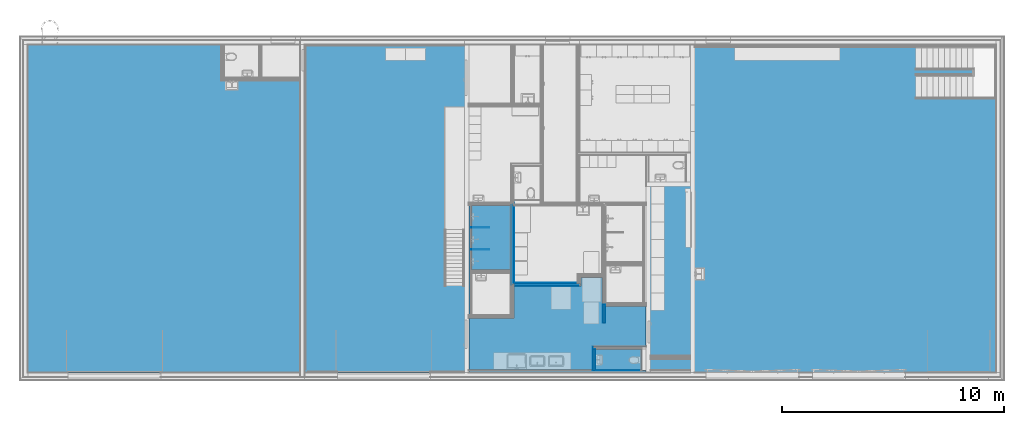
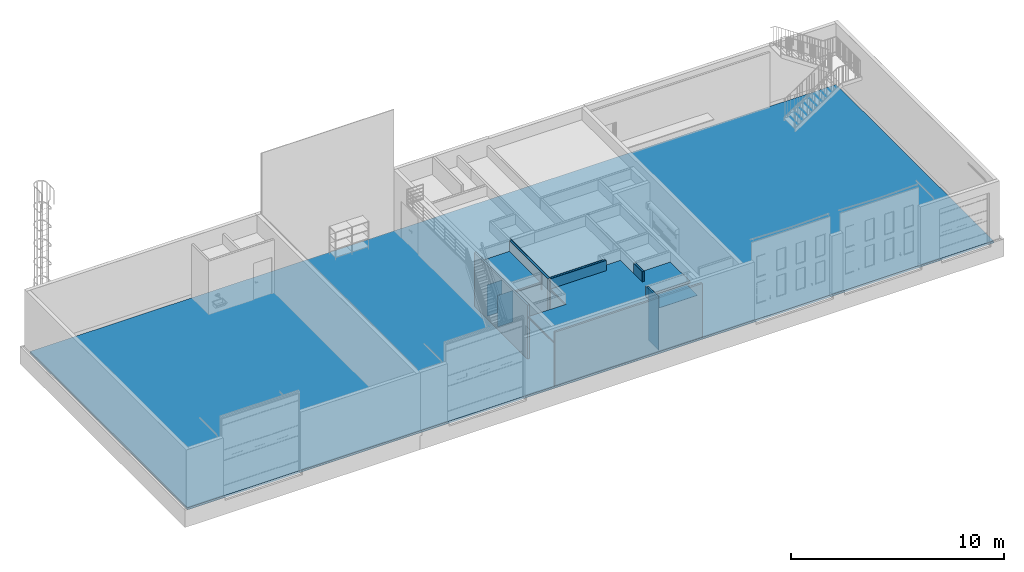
# One storey, part 4 of 67: 27 building element parts, 1 opening, 12 elements without a shape of their own.
"""IFC4 building model written with IfcOpenShell, lengths in millimetres."""

from ifc_helpers import new_model, entity, si_unit, converted_unit, direction, frame, origin, place, context, subcontext, project, spatial, indexed_curve, outline, extrude, material, type_object, element, aggregate, save


model = new_model("IFC4")

# Units and contexts
model_context = context("Model", 3, precision=0.01, world=origin(), true_north=direction((0.0, 1.0)))
body_context = subcontext(model_context, "Body", "Model", "MODEL_VIEW")
ifc_project = project(units=[si_unit("LENGTHUNIT", "METRE", prefix="MILLI"), si_unit("AREAUNIT", "SQUARE_METRE"), si_unit("VOLUMEUNIT", "CUBIC_METRE"), converted_unit("PLANEANGLEUNIT", "DEGREE", entity("IfcPlaneAngleMeasure", 0.017453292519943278), si_unit("PLANEANGLEUNIT", "RADIAN"), dimensions=[0, 0, 0, 0, 0, 0, 0])], contexts=[model_context])

# Site, building, storey
site_placement = place(None, origin())
site = spatial("IfcSite", under=ifc_project, at=site_placement, Name="Tomtens navn", CompositionType="ELEMENT")
building_placement = place(site_placement, origin())
building = spatial("IfcBuilding", under=site, at=building_placement, Name="Byggets navn", CompositionType="ELEMENT")
storey_placement = place(building_placement, origin())
storey = spatial("IfcBuildingStorey", under=building, at=storey_placement, Name="Level 01", CompositionType="ELEMENT", Elevation=2.1993652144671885e-25)

# Slab, building element part
slab_type = type_object("IfcSlabType", Name="Floor:Gulv på grunn 120mm", PredefinedType="FLOOR")
slab_placement = place(storey_placement, origin())
slab = element("IfcSlab", 1, at=slab_placement, inside=storey, type_object=slab_type, Name="Floor:Gulv på grunn 120mm", PredefinedType="FLOOR")
building_element_part_1_placement = place(slab_placement, origin())
building_element_part_1 = element("IfcBuildingElementPart", 2, at=building_element_part_1_placement, Name="Floor:Gulv på grunn 120mm", context=body_context, shape_type="SweptSolid", body=[
    extrude(outline(indexed_curve([(-21854.999549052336, -7400.001693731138), (21854.999549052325, -7400.001693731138), (21854.99954905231, 7400.001693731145), (-21854.999549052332, 7400.00169373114), (-21854.999549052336, -7400.001693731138)], self_intersect=False)), frame((60567.8524863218, 15461.462642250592, -120.0), z_axis=(0.0, 0.0, 1.0), x_axis=(-1.0, 2.0273487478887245e-07, 0.0)), (0.0, 0.0, 1.0), 119.99999999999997),
])
aggregate(slab, [building_element_part_1])

# Space
space_1_placement = place(storey_placement, origin())
space_1 = spatial("IfcSpace", under=storey, at=space_1_placement, CompositionType="ELEMENT", PredefinedType="NOTDEFINED")

# Covering, building element parts
covering_type_1 = type_object("IfcCoveringType", Name="Compound Ceiling:H02 257_Systemhimling 600x600, hygiene", PredefinedType="CEILING")
covering_1_placement = place(space_1_placement, origin())
covering_1 = element("IfcCovering", 3, at=covering_1_placement, inside=space_1, type_object=covering_type_1, Name="Compound Ceiling:H02 257_Systemhimling 600x600, hygiene", PredefinedType="CEILING")
ifc_material_1 = material(Name="NO_Himling (type ikke bestemt)", Category="Diverse")
building_element_part_2_placement = place(covering_1_placement, origin())
building_element_part_2 = element("IfcBuildingElementPart", 4, at=building_element_part_2_placement, material=ifc_material_1, Name="NO_Himling (type ikke bestemt)", context=body_context, shape_type="SweptSolid", body=[
    extrude(outline(indexed_curve([(-1456.7500000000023, -884.9999999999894), (1456.7500000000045, -884.9999999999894), (1456.7500000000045, 884.9999999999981), (-1456.7500000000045, 884.9999999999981), (-1456.7500000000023, -884.9999999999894)], self_intersect=False)), frame((59628.853528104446, 14149.21645692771, 2420.0), z_axis=(0.0, 0.0, 1.0), x_axis=(0.0, -1.0, 0.0)), (0.0, 0.0, 1.0), 79.99999999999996),
])
ifc_material_2 = material(Name="NO_Himling 600x600 hygiene", Category="Diverse")
building_element_part_3_placement = place(covering_1_placement, origin())
building_element_part_3 = element("IfcBuildingElementPart", 5, at=building_element_part_3_placement, material=ifc_material_2, Name="NO_Himling 600x600 hygiene", context=body_context, shape_type="SweptSolid", body=[
    extrude(outline(indexed_curve([(-1456.7500000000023, -884.9999999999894), (1456.7500000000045, -884.9999999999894), (1456.7500000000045, 884.9999999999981), (-1456.7500000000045, 884.9999999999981), (-1456.7500000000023, -884.9999999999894)], self_intersect=False)), frame((59628.853528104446, 14149.21645692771, 2400.0), z_axis=(0.0, 0.0, 1.0), x_axis=(0.0, -1.0, 0.0)), (0.0, 0.0, 1.0), 20.000000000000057),
])
aggregate(covering_1, [building_element_part_2, building_element_part_3])

# Space
space_2_placement = place(storey_placement, origin())
space_2 = spatial("IfcSpace", under=storey, at=space_2_placement, CompositionType="ELEMENT", PredefinedType="NOTDEFINED")

# Covering, building element parts
covering_type_2 = type_object("IfcCoveringType", Name="Compound Ceiling:H01 257_Systemhimling 600x600, tykkelse 100", PredefinedType="CEILING")
covering_2_placement = place(space_2_placement, origin())
covering_2 = element("IfcCovering", 6, at=covering_2_placement, inside=space_2, type_object=covering_type_2, Name="Compound Ceiling:H01 257_Systemhimling 600x600, tykkelse 100", PredefinedType="CEILING")
building_element_part_4_placement = place(covering_2_placement, origin())
building_element_part_4 = element("IfcBuildingElementPart", 7, at=building_element_part_4_placement, material=ifc_material_1, Name="NO_Himling (type ikke bestemt)", context=body_context, shape_type="SweptSolid", body=[
    extrude(outline(indexed_curve([(-4.928571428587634, -4693.308194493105), (2348.0714285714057, -4693.308194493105), (2348.071428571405, 889.8491669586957), (1274.0714285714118, 889.8491669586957), (1274.0714285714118, 3306.691805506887), (-545.9285714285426, 3306.6918055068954), (-545.9285714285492, 1460.6918055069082), (211.07142857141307, 1460.6918055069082), (211.07142857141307, 1339.6918055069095), (-1841.1785714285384, 1339.6918055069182), (-1841.1785714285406, 364.6918055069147), (-1441.1785714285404, 364.6918055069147), (-1441.1785714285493, -2668.3081944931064), (-4.928571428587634, -2668.308194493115), (-4.928571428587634, -4693.308194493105)], self_intersect=False)), frame((63316.16172259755, 10521.537885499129, 2420.0), z_axis=(0.0, 0.0, 1.0), x_axis=(0.0, -1.0, 0.0)), (0.0, 0.0, 1.0), 79.99999999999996),
])
ifc_material_3 = material(Name="NO_Himling 600x600", Category="Diverse")
building_element_part_5_placement = place(covering_2_placement, origin())
building_element_part_5 = element("IfcBuildingElementPart", 8, at=building_element_part_5_placement, material=ifc_material_3, Name="NO_Himling 600x600", context=body_context, shape_type="SweptSolid", body=[
    extrude(outline(indexed_curve([(-4.928571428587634, -4693.308194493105), (2348.0714285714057, -4693.308194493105), (2348.071428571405, 889.8491669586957), (1274.0714285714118, 889.8491669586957), (1274.0714285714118, 3306.691805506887), (-545.9285714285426, 3306.6918055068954), (-545.9285714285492, 1460.6918055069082), (211.07142857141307, 1460.6918055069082), (211.07142857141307, 1339.6918055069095), (-1841.1785714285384, 1339.6918055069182), (-1841.1785714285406, 364.6918055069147), (-1441.1785714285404, 364.6918055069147), (-1441.1785714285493, -2668.3081944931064), (-4.928571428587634, -2668.308194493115), (-4.928571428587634, -4693.308194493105)], self_intersect=False)), frame((63316.16172259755, 10521.537885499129, 2400.0), z_axis=(0.0, 0.0, 1.0), x_axis=(0.0, -1.0, 0.0)), (0.0, 0.0, 1.0), 20.000000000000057),
])
aggregate(covering_2, [building_element_part_4, building_element_part_5])

# Wall, building element parts
wall_type_1 = type_object("IfcWallType", Name="Basic Wall:IV12 Utforing Stender(48)-Forestia", PredefinedType="STANDARD")
wall_1_placement = place(storey_placement, frame((66622.85352810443, 8118.466456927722, 0.0), z_axis=(0.0, 0.0, 1.0), x_axis=(-1.0, 0.0, 0.0)))
wall_1 = element("IfcWall", 9, at=wall_1_placement, inside=storey, type_object=wall_type_1, Name="Basic Wall:IV12 Utforing Stender(48)-Forestia", PredefinedType="NOTDEFINED")
ifc_material_4 = material(Name="NO_platekledning forestia", Category="Tre")
building_element_part_6_placement = place(wall_1_placement, origin())
building_element_part_6 = element("IfcBuildingElementPart", 10, at=building_element_part_6_placement, material=ifc_material_4, Name="NO_platekledning forestia", context=body_context, shape_type="SweptSolid", body=[
    extrude(outline(indexed_curve([(-7.499999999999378, -1055.4213192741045), (7.500000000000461, -1055.4213192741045), (7.500000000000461, 1055.4213192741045), (-7.499999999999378, 1055.4213192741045), (-7.499999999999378, -1055.4213192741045)], self_intersect=False)), frame((1253.4213192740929, -47.50000000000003, 0.0), z_axis=(0.0, 0.0, 1.0), x_axis=(0.0, 1.0, 0.0)), (0.0, 0.0, 1.0), 3087.999999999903),
])
ifc_material_5 = material(Name="Stender", Category="Unassigned")
building_element_part_7_placement = place(wall_1_placement, origin())
building_element_part_7 = element("IfcBuildingElementPart", 11, at=building_element_part_7_placement, material=ifc_material_5, Name="Stender", context=body_context, shape_type="SweptSolid", body=[
    extrude(outline(indexed_curve([(-47.49999999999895, -4000.0000000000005), (47.500000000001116, -4000.0000000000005), (47.50000000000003, 3999.999999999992), (-47.50000000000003, 3999.999999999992), (-47.49999999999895, -4000.0000000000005)], self_intersect=False)), frame((4000.0, 7.500000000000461, 0.0), z_axis=(0.0, 0.0, 1.0), x_axis=(0.0, 1.0, 0.0)), (0.0, 0.0, 1.0), 3087.999999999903),
])
aggregate(wall_1, [building_element_part_6, building_element_part_7])

# Wall, building element parts, opening
wall_type_2 = type_object("IfcWallType", Name="Basic Wall:IV15 Gips kryssfiner 95 stålstender +15mm kryssfiner+baderomsplater 2", PredefinedType="STANDARD")
wall_2_placement = place(storey_placement, frame((60588.353528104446, 15605.966456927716, 0.0), z_axis=(0.0, 0.0, 1.0), x_axis=(0.0, -1.0, 0.0)))
wall_2 = element("IfcWall", 12, at=wall_2_placement, inside=storey, type_object=wall_type_2, Name="Basic Wall:IV15 Gips kryssfiner 95 stålstender +15mm kryssfiner+baderomsplater 2", PredefinedType="NOTDEFINED")
ifc_material_6 = material(Name="NO_Kryssfiner", Category="Tre")
building_element_part_8_placement = place(wall_2_placement, origin())
building_element_part_8 = element("IfcBuildingElementPart", 13, at=building_element_part_8_placement, material=ifc_material_6, Name="NO_Kryssfiner", context=body_context, shape_type="SweptSolid", body=[
    extrude(outline(indexed_curve([(-7.500000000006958, -1789.8750000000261), (7.499999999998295, -1789.8750000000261), (7.500000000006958, 1789.875000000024), (-7.499999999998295, 1789.875000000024), (-7.500000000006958, -1789.8750000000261)], self_intersect=False)), frame((1778.8750000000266, -56.0, 0.0), z_axis=(0.0, 0.0, 1.0), x_axis=(0.0, -1.0, 0.0)), (0.0, 0.0, 1.0), 3087.999999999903),
])
opening_placement = place(wall_2_placement, origin())
opening = element("IfcOpeningElement", 14, at=opening_placement, cuts=building_element_part_8, Name="Basic Wall:IV15 Gips kryssfiner 95 stålstender +15mm kryssfiner+baderomsplater 2:1", PredefinedType="OPENING", context=body_context, shape_type="SweptSolid", body=[
    extrude(outline(indexed_curve([(-484.99999999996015, -47.500000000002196), (484.9999999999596, -47.500000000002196), (484.9999999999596, 47.50000000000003), (-484.99999999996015, 47.500000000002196), (-484.99999999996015, -47.500000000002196)], self_intersect=False)), frame((2987.0, -63.50000000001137, 2595.0), z_axis=(0.0, 1.0, 0.0), x_axis=(0.0, 0.0, 1.0)), (0.0, 0.0, 1.0), 15.000000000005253),
])
building_element_part_9_placement = place(wall_2_placement, origin())
building_element_part_9 = element("IfcBuildingElementPart", 15, at=building_element_part_9_placement, material=ifc_material_5, Name="Stender", context=body_context, shape_type="SweptSolid", body=[
    extrude(outline(indexed_curve([(-1797.3750000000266, -47.500000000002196), (1797.3750000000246, -47.500000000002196), (1797.3750000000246, 47.499999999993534), (-1797.3750000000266, 47.499999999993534), (-1797.3750000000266, -47.500000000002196)], self_intersect=False)), frame((1771.3750000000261, -1.0, 0.0)), (0.0, 0.0, 1.0), 3087.999999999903),
])
building_element_part_10_placement = place(wall_2_placement, origin())
building_element_part_10 = element("IfcBuildingElementPart", 16, at=building_element_part_10_placement, material=ifc_material_6, Name="NO_Kryssfiner", context=body_context, shape_type="SweptSolid", body=[
    extrude(outline(indexed_curve([(-1844.8750000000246, -7.500000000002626), (1844.8750000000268, -7.500000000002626), (1844.8750000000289, 7.500000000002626), (-1844.8750000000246, 7.500000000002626), (-1844.8750000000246, -7.500000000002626)], self_intersect=False)), frame((1723.8750000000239, 54.0, 0.0)), (0.0, 0.0, 1.0), 3087.999999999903),
])
ifc_material_7 = material(Name="Gipsplater", Category="NOR ^ Gips")
building_element_part_11_placement = place(wall_2_placement, origin())
building_element_part_11 = element("IfcBuildingElementPart", 17, at=building_element_part_11_placement, material=ifc_material_7, Name="Gipsplater", context=body_context, shape_type="SweptSolid", body=[
    extrude(outline(indexed_curve([(-1851.3750000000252, -6.500000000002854), (1851.3750000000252, -6.500000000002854), (1851.3750000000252, 6.49999999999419), (-1851.3750000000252, 6.49999999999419), (-1851.3750000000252, -6.500000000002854)], self_intersect=False)), frame((1717.3750000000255, 68.0, 0.0)), (0.0, 0.0, 1.0), 3087.999999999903),
])
aggregate(wall_2, [building_element_part_8, opening, building_element_part_9, building_element_part_10, building_element_part_11])

# Wall, building element parts
wall_type_3 = type_object("IfcWallType", Name="Basic Wall:IV10  Forestia 95 Stender Forestia", PredefinedType="STANDARD")
wall_3_placement = place(storey_placement, frame((64266.51088955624, 9126.466456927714, 0.0), z_axis=(0.0, 0.0, 1.0), x_axis=(0.0, -1.0, 0.0)))
wall_3 = element("IfcWall", 18, at=wall_3_placement, inside=storey, type_object=wall_type_3, Name="Basic Wall:IV10  Forestia 95 Stender Forestia", PredefinedType="NOTDEFINED")
building_element_part_12_placement = place(wall_3_placement, origin())
building_element_part_12 = element("IfcBuildingElementPart", 19, at=building_element_part_12_placement, material=ifc_material_5, Name="Stender", context=body_context, shape_type="SweptSolid", body=[
    extrude(outline(indexed_curve([(-490.49999999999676, -47.49999999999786), (490.49999999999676, -47.49999999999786), (490.49999999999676, 47.49999999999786), (-490.49999999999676, 47.49999999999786), (-490.49999999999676, -47.49999999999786)], self_intersect=False)), frame((477.4999999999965, 0.0, 0.0)), (0.0, 0.0, 1.0), 3087.999999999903),
])
building_element_part_13_placement = place(wall_3_placement, origin())
building_element_part_13 = element("IfcBuildingElementPart", 20, at=building_element_part_13_placement, material=ifc_material_4, Name="NO_platekledning forestia", context=body_context, shape_type="SweptSolid", body=[
    extrude(outline(indexed_curve([(-476.4999999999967, -6.499999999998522), (476.4999999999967, -6.499999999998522), (476.4999999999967, 6.500000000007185), (-476.4999999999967, 6.500000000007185), (-476.4999999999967, -6.499999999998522)], self_intersect=False)), frame((476.4999999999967, 54.0, 0.0)), (0.0, 0.0, 1.0), 3087.999999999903),
])
building_element_part_14_placement = place(wall_3_placement, origin())
building_element_part_14 = element("IfcBuildingElementPart", 21, at=building_element_part_14_placement, material=ifc_material_4, Name="NO_platekledning forestia", context=body_context, shape_type="SweptSolid", body=[
    extrude(outline(indexed_curve([(-530.4999999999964, -6.49999999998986), (530.4999999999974, -6.49999999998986), (530.4999999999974, 6.500000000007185), (-530.4999999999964, 6.500000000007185), (-530.4999999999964, -6.49999999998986)], self_intersect=False)), frame((422.499999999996, -54.0, 0.0)), (0.0, 0.0, 1.0), 3087.999999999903),
])
aggregate(wall_3, [building_element_part_12, building_element_part_13, building_element_part_14])

# Wall, building element part
wall_type_4 = type_object("IfcWallType", Name="Basic Wall:IV11  95 Utforing 15mm kryssfiner baderomsplater 2", PredefinedType="STANDARD")
wall_4_placement = place(storey_placement, frame((58683.35352810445, 15605.966456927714, 0.0), z_axis=(0.0, 0.0, 1.0), x_axis=(0.0, -1.0, 0.0)))
wall_4 = element("IfcWall", 22, at=wall_4_placement, inside=storey, type_object=wall_type_4, Name="Basic Wall:IV11  95 Utforing 15mm kryssfiner baderomsplater 2", PredefinedType="NOTDEFINED")
building_element_part_15_placement = place(wall_4_placement, origin())
building_element_part_15 = element("IfcBuildingElementPart", 23, at=building_element_part_15_placement, material=ifc_material_5, Name="Stender", context=body_context, shape_type="SweptSolid", body=[
    extrude(outline(indexed_curve([(-2498.7499999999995, -47.49999999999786), (2498.7500000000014, -47.49999999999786), (2498.7500000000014, 47.49999999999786), (-2498.7499999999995, 47.49999999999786), (-2498.7499999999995, -47.49999999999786)], self_intersect=False)), frame((2472.7499999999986, -13.0, 0.0)), (0.0, 0.0, 1.0), 3081.346137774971),
])
aggregate(wall_4, [building_element_part_15])

# Wall, building element parts
wall_5_placement = place(storey_placement, frame((64716.35352810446, 10310.466456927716, 0.0), z_axis=(0.0, 0.0, 1.0), x_axis=(0.0, 1.0, 0.0)))
wall_5 = element("IfcWall", 24, at=wall_5_placement, inside=storey, type_object=wall_type_3, Name="Basic Wall:IV10  Forestia 95 Stender Forestia", PredefinedType="NOTDEFINED")
building_element_part_16_placement = place(wall_5_placement, origin())
building_element_part_16 = element("IfcBuildingElementPart", 25, at=building_element_part_16_placement, material=ifc_material_5, Name="Stender", context=body_context, shape_type="SweptSolid", body=[
    extrude(outline(indexed_curve([(-412.44505270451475, -47.49999999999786), (412.4450527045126, -47.49999999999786), (412.4450527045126, 47.49999999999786), (-412.44505270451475, 47.49999999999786), (-412.44505270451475, -47.49999999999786)], self_intersect=False)), frame((412.4450527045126, 0.0, 0.0), z_axis=(0.0, 0.0, 1.0), x_axis=(-1.0, 0.0, 0.0)), (0.0, 0.0, 1.0), 3080.0),
])
building_element_part_17_placement = place(wall_5_placement, origin())
building_element_part_17 = element("IfcBuildingElementPart", 26, at=building_element_part_17_placement, material=ifc_material_4, Name="NO_platekledning forestia", context=body_context, shape_type="SweptSolid", body=[
    extrude(outline(indexed_curve([(-412.44505270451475, -6.499999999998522), (412.4450527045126, -6.499999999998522), (412.4450527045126, 6.500000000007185), (-412.44505270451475, 6.500000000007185), (-412.44505270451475, -6.499999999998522)], self_intersect=False)), frame((412.4450527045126, 54.0, 0.0), z_axis=(0.0, 0.0, 1.0), x_axis=(-1.0, 0.0, 0.0)), (0.0, 0.0, 1.0), 3080.0),
])
building_element_part_18_placement = place(wall_5_placement, origin())
building_element_part_18 = element("IfcBuildingElementPart", 27, at=building_element_part_18_placement, material=ifc_material_4, Name="NO_platekledning forestia", context=body_context, shape_type="SweptSolid", body=[
    extrude(outline(indexed_curve([(-412.44505270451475, -6.499999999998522), (412.4450527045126, -6.499999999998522), (412.4450527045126, 6.499999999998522), (-412.44505270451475, 6.499999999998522), (-412.44505270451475, -6.499999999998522)], self_intersect=False)), frame((412.4450527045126, -54.0, 0.0), z_axis=(0.0, 0.0, 1.0), x_axis=(-1.0, 0.0, 0.0)), (0.0, 0.0, 1.0), 3080.0),
])
aggregate(wall_5, [building_element_part_16, building_element_part_17, building_element_part_18])

# Wall, building element part
wall_type_5 = type_object("IfcWallType", Name="Basic Wall:IV23 Dusjvegg", PredefinedType="STANDARD")
wall_6_placement = place(storey_placement, frame((59543.35352810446, 14618.96645692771, 0.0), z_axis=(0.0, 0.0, 1.0), x_axis=(-1.0, 0.0, 0.0)))
wall_6 = element("IfcWall", 28, at=wall_6_placement, inside=storey, type_object=wall_type_5, Name="Basic Wall:IV23 Dusjvegg", PredefinedType="NOTDEFINED")
ifc_material_8 = material(Name="NO_Baderomsplater", Category="Tre")
building_element_part_19_placement = place(wall_6_placement, origin())
building_element_part_19 = element("IfcBuildingElementPart", 29, at=building_element_part_19_placement, material=ifc_material_8, Name="NO_Baderomsplater", context=body_context, shape_type="SweptSolid", body=[
    extrude(outline(indexed_curve([(-9.999999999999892, -412.7499999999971), (9.999999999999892, -412.7499999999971), (9.999999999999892, 412.7500000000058), (-9.999999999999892, 412.7500000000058), (-9.999999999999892, -412.7499999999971)], self_intersect=False)), frame((412.7500000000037, 0.0, 0.0), z_axis=(0.0, 0.0, 1.0), x_axis=(0.0, 1.0, 0.0)), (0.0, 0.0, 1.0), 1800.0000000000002),
])
aggregate(wall_6, [building_element_part_19])

wall_7_placement = place(storey_placement, frame((59543.35352810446, 13618.96645692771, 0.0), z_axis=(0.0, 0.0, 1.0), x_axis=(-1.0, 0.0, 0.0)))
wall_7 = element("IfcWall", 30, at=wall_7_placement, inside=storey, type_object=wall_type_5, Name="Basic Wall:IV23 Dusjvegg", PredefinedType="NOTDEFINED")
building_element_part_20_placement = place(wall_7_placement, origin())
building_element_part_20 = element("IfcBuildingElementPart", 31, at=building_element_part_20_placement, material=ifc_material_8, Name="NO_Baderomsplater", context=body_context, shape_type="SweptSolid", body=[
    extrude(outline(indexed_curve([(-9.999999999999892, -412.7499999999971), (9.999999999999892, -412.7499999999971), (9.999999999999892, 412.7500000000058), (-9.999999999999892, 412.7500000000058), (-9.999999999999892, -412.7499999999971)], self_intersect=False)), frame((412.75000000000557, 0.0, 0.0), z_axis=(0.0, 0.0, 1.0), x_axis=(0.0, 1.0, 0.0)), (0.0, 0.0, 1.0), 1800.0000000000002),
])
aggregate(wall_7, [building_element_part_20])

# Wall, building element parts
wall_type_6 = type_object("IfcWallType", Name="Basic Wall:IV05 - Forestia+Gips- Stender-kryssfiner- Gips", PredefinedType="STANDARD")
wall_8_placement = place(storey_placement, frame((63680.85352810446, 12037.216456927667, 0.0), z_axis=(0.0, 0.0, 1.0), x_axis=(-1.0, 0.0, 0.0)))
wall_8 = element("IfcWall", 32, at=wall_8_placement, inside=storey, type_object=wall_type_6, Name="Basic Wall:IV05 - Forestia+Gips- Stender-kryssfiner- Gips", PredefinedType="NOTDEFINED")
building_element_part_21_placement = place(wall_8_placement, origin())
building_element_part_21 = element("IfcBuildingElementPart", 33, at=building_element_part_21_placement, material=ifc_material_6, Name="NO_Kryssfiner", context=body_context, shape_type="SweptSolid", body=[
    extrude(outline(indexed_curve([(-7.499999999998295, -1448.500000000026), (7.500000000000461, -1448.500000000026), (7.500000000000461, 1448.5000000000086), (-7.499999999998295, 1448.5000000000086), (-7.499999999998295, -1448.500000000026)], self_intersect=False)), frame((1569.5000000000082, -54.0, 0.0), z_axis=(0.0, 0.0, 1.0), x_axis=(0.0, 1.0, 0.0)), (0.0, 0.0, 1.0), 3079.9999999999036),
])
building_element_part_22_placement = place(wall_8_placement, origin())
building_element_part_22 = element("IfcBuildingElementPart", 34, at=building_element_part_22_placement, material=ifc_material_4, Name="NO_platekledning forestia", context=body_context, shape_type="SweptSolid", body=[
    extrude(outline(indexed_curve([(-6.500000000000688, -1516.5000000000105), (6.500000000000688, -1516.5000000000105), (6.500000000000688, 1516.5000000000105), (-6.500000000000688, 1516.500000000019), (-6.500000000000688, -1516.5000000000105)], self_intersect=False)), frame((1516.5000000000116, 68.0, 0.0), z_axis=(0.0, 0.0, 1.0), x_axis=(0.0, 1.0, 0.0)), (0.0, 0.0, 1.0), 3079.9999999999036),
])
building_element_part_23_placement = place(wall_8_placement, origin())
building_element_part_23 = element("IfcBuildingElementPart", 35, at=building_element_part_23_placement, material=ifc_material_5, Name="Stender", context=body_context, shape_type="SweptSolid", body=[
    extrude(outline(indexed_curve([(-0.6666666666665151, -1007.3333333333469), (47.833333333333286, -1007.3333333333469), (47.833333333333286, 1999.6666666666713), (-47.16666666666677, 1999.6666666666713), (-47.16666666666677, -992.3333333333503), (-0.6666666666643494, -992.3333333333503), (-0.6666666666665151, -1007.3333333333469)], self_intersect=False)), frame((2025.666666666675, 0.6666666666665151, 0.0), z_axis=(0.0, 0.0, 1.0), x_axis=(0.0, 1.0, 0.0)), (0.0, 0.0, 1.0), 3079.9999999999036),
])
building_element_part_24_placement = place(wall_8_placement, origin())
building_element_part_24 = element("IfcBuildingElementPart", 36, at=building_element_part_24_placement, material=ifc_material_7, Name="Gipsplater", context=body_context, shape_type="SweptSolid", body=[
    extrude(outline(indexed_curve([(-6.500000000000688, -1441.0000000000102), (6.500000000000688, -1441.0000000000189), (6.500000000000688, 1441.0000000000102), (-6.500000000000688, 1441.0000000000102), (-6.500000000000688, -1441.0000000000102)], self_intersect=False)), frame((1577.0, -68.0, 0.0), z_axis=(0.0, 0.0, 1.0), x_axis=(0.0, 1.0, 0.0)), (0.0, 0.0, 1.0), 3079.9999999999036),
])
building_element_part_25_placement = place(wall_8_placement, origin())
building_element_part_25 = element("IfcBuildingElementPart", 37, at=building_element_part_25_placement, material=ifc_material_7, Name="Gipsplater", context=body_context, shape_type="SweptSolid", body=[
    extrude(outline(indexed_curve([(-6.500000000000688, -1510.0000000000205), (6.499999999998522, -1510.0000000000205), (6.499999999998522, 1510.0000000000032), (-6.500000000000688, 1510.0000000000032), (-6.500000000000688, -1510.0000000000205)], self_intersect=False)), frame((1523.0, 55.0, 0.0), z_axis=(0.0, 0.0, 1.0), x_axis=(0.0, 1.0, 0.0)), (0.0, 0.0, 1.0), 3079.9999999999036),
])
aggregate(wall_8, [building_element_part_21, building_element_part_22, building_element_part_23, building_element_part_24, building_element_part_25])

# Space
space_3_placement = place(storey_placement, origin())
space_3 = spatial("IfcSpace", under=storey, at=space_3_placement, CompositionType="ELEMENT", PredefinedType="NOTDEFINED")

# Covering, building element parts
covering_3_placement = place(space_3_placement, origin())
covering_3 = element("IfcCovering", 38, at=covering_3_placement, inside=space_3, type_object=covering_type_2, Name="Compound Ceiling:H01 257_Systemhimling 600x600, tykkelse 100", PredefinedType="CEILING")
building_element_part_26_placement = place(covering_3_placement, origin())
building_element_part_26 = element("IfcBuildingElementPart", 39, at=building_element_part_26_placement, material=ifc_material_1, Name="NO_Himling (type ikke bestemt)", context=body_context, shape_type="SweptSolid", body=[
    extrude(outline(indexed_curve([(-476.4999999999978, -1042.4213192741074), (476.4999999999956, -1042.4213192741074), (476.4999999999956, 1042.4213192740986), (-476.4999999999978, 1042.4213192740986), (-476.4999999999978, -1042.4213192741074)], self_intersect=False)), frame((65369.43220883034, 8649.966456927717, 2420.0), z_axis=(0.0, 0.0, 1.0), x_axis=(0.0, -1.0, 0.0)), (0.0, 0.0, 1.0), 79.99999999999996),
])
building_element_part_27_placement = place(covering_3_placement, origin())
building_element_part_27 = element("IfcBuildingElementPart", 40, at=building_element_part_27_placement, material=ifc_material_3, Name="NO_Himling 600x600", context=body_context, shape_type="SweptSolid", body=[
    extrude(outline(indexed_curve([(-476.4999999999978, -1042.4213192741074), (476.4999999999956, -1042.4213192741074), (476.4999999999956, 1042.4213192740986), (-476.4999999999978, 1042.4213192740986), (-476.4999999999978, -1042.4213192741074)], self_intersect=False)), frame((65369.43220883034, 8649.966456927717, 2400.0), z_axis=(0.0, 0.0, 1.0), x_axis=(0.0, -1.0, 0.0)), (0.0, 0.0, 1.0), 20.000000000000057),
])
aggregate(covering_3, [building_element_part_26, building_element_part_27])

save(model, "model.ifc")
